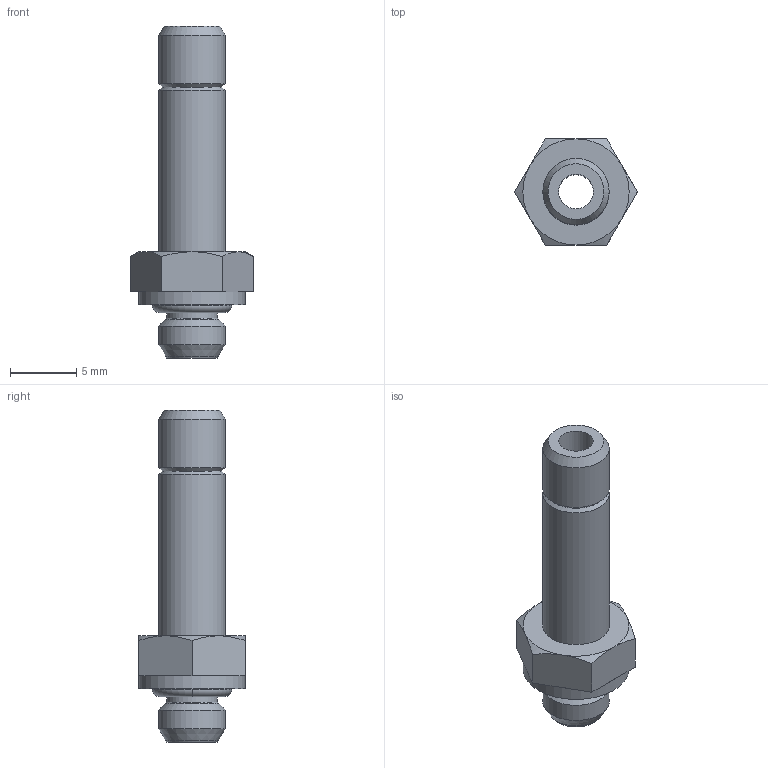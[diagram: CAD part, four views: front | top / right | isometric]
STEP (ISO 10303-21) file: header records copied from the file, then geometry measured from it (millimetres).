
FILE_DESCRIPTION(('Bauteilbeschreibung','HiCAD-Model','HiCAD-STEP-TRANSLATION','Bauteilbeschreibung'),'2;1');
FILE_NAME('B:/ABGLEICH/ZEICHNUNGEN/STEP FÜR INTERNET/STEP/IPSO 06/200604_IPSO_06_6_M5.STP','2012-02-29T10:33:34+00:00',('Konstrukteur'),('Konstrukteur Firma GmbH'),' HiCAD neXt 2008, Step 3.1.1401.2J ','HiCAD neXt 2008','confidential');
FILE_SCHEMA(('AUTOMOTIVE_DESIGN { 1 2 10303 214 0 1 1 1 }'));
Length unit declared in the file: millimetre
Products named in the file (5): A00604_IPSO_06_6_M5; A00604; A006040; DIN 13_M5; OR 4X1_2
Assembly tree (4 placements, depth 3):
  A00604_IPSO_06_6_M5
    A00604
    A006040
      DIN 13_M5
    OR 4X1_2
Bounding box: 9.24 x 8 x 25 mm (x, y, z)
Volume: 483.3 mm3; surface area: 866.6 mm2
Topology: 3 solids, 3 shells, 44 faces, 96 edges, 56 vertices
Faces by surface type: plane 16, cone 15, cylinder 8, torus 5
Full cylindrical faces by diameter (mm): 2.6 x1, 3.8 x1, 4.019 x2, 5 x3, 8 x1
Entity records: 1479 total; most frequent: DIRECTION 204, CARTESIAN_POINT 196, ORIENTED_EDGE 142, AXIS2_PLACEMENT_3D 93, EDGE_CURVE 71, COLOUR_RGB 66, EDGE_LOOP 66, PRESENTATION_STYLE_ASSIGNMENT 66
